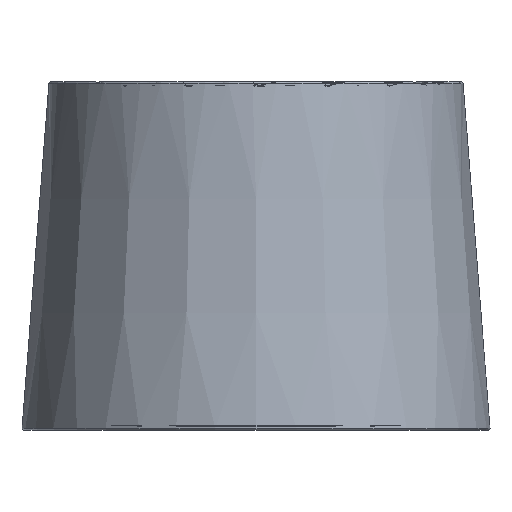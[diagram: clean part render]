
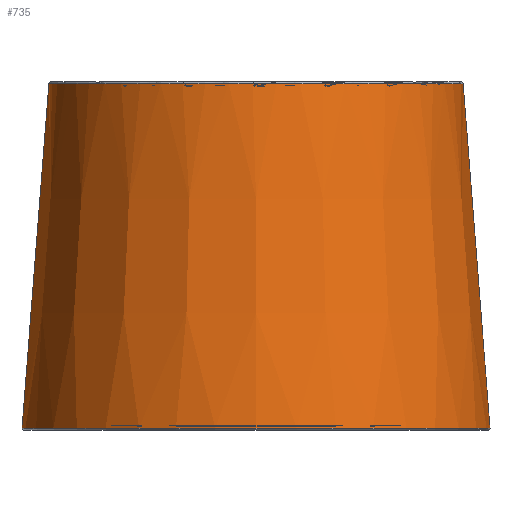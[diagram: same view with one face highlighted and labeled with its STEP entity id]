
A CAD part, left-side view. The second image highlights one B-rep face of the part: STEP entity #735.
In plain terms, the highlighted conical face has half-angle 4.466 degrees and reference radius 106.184 mm.
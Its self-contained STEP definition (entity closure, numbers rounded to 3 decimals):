
#43=B_SPLINE_CURVE_WITH_KNOTS('',3,(#1984,#1985,#1986,#1987,#1988,#1989,
#1990,#1991,#1992,#1993,#1994,#1995),.UNSPECIFIED.,.F.,.F.,(4,1,1,1,1,1,
1,1,1,4),(0.,0.111,0.222,0.333,0.444,
0.556,0.667,0.778,0.889,
1.),.UNSPECIFIED.);
#119=FACE_OUTER_BOUND('',#175,.T.);
#175=EDGE_LOOP('',(#560,#561,#562,#563));
#226=LINE('',#1997,#266);
#227=LINE('',#1998,#267);
#266=VECTOR('',#956,304.8);
#267=VECTOR('',#957,304.8);
#309=CIRCLE('',#810,107.419);
#350=VERTEX_POINT('',#1173);
#351=VERTEX_POINT('',#1174);
#352=VERTEX_POINT('',#1583);
#353=VERTEX_POINT('',#1777);
#419=EDGE_CURVE('',#351,#350,#309,.T.);
#423=EDGE_CURVE('',#352,#353,#43,.T.);
#424=EDGE_CURVE('',#350,#352,#226,.T.);
#425=EDGE_CURVE('',#353,#351,#227,.T.);
#560=ORIENTED_EDGE('',*,*,#423,.T.);
#561=ORIENTED_EDGE('',*,*,#425,.T.);
#562=ORIENTED_EDGE('',*,*,#419,.T.);
#563=ORIENTED_EDGE('',*,*,#424,.T.);
#719=CONICAL_SURFACE('',#814,106.184,0.078);
#735=ADVANCED_FACE('',(#119),#719,.T.);
#810=AXIS2_PLACEMENT_3D('',#1581,#948,#949);
#814=AXIS2_PLACEMENT_3D('',#1999,#958,#959);
#948=DIRECTION('center_axis',(0.,0.,
1.));
#949=DIRECTION('ref_axis',(-0.588,0.809,0.));
#956=DIRECTION('',(0.,0.078,0.997));
#957=DIRECTION('',(0.,0.078,-0.997));
#958=DIRECTION('center_axis',(0.,0.,
-1.));
#959=DIRECTION('ref_axis',(-0.588,0.809,0.));
#1173=CARTESIAN_POINT('',(0.,-107.419,1.));
#1174=CARTESIAN_POINT('',(0.,107.419,1.));
#1581=CARTESIAN_POINT('Origin',(0.,0.,
1.));
#1583=CARTESIAN_POINT('',(0.,-95.072,159.083));
#1777=CARTESIAN_POINT('',(0.,95.072,159.083));
#1984=CARTESIAN_POINT('Ctrl Pts',(0.,-95.072,
159.083));
#1985=CARTESIAN_POINT('Ctrl Pts',(-11.09,-95.151,159.083));
#1986=CARTESIAN_POINT('Ctrl Pts',(-33.17,-91.134,159.083));
#1987=CARTESIAN_POINT('Ctrl Pts',(-62.368,-74.333,159.083));
#1988=CARTESIAN_POINT('Ctrl Pts',(-84.023,-48.508,159.083));
#1989=CARTESIAN_POINT('Ctrl Pts',(-95.548,-16.849,159.083));
#1990=CARTESIAN_POINT('Ctrl Pts',(-95.548,16.849,159.083));
#1991=CARTESIAN_POINT('Ctrl Pts',(-84.023,48.508,159.083));
#1992=CARTESIAN_POINT('Ctrl Pts',(-62.368,74.333,159.083));
#1993=CARTESIAN_POINT('Ctrl Pts',(-33.17,91.134,159.083));
#1994=CARTESIAN_POINT('Ctrl Pts',(-11.09,95.151,159.083));
#1995=CARTESIAN_POINT('Ctrl Pts',(0.,95.072,
159.083));
#1997=CARTESIAN_POINT('',(0.,-107.419,1.));
#1998=CARTESIAN_POINT('',(0.,95.072,159.083));
#1999=CARTESIAN_POINT('Origin',(0.,0.,
16.809));
